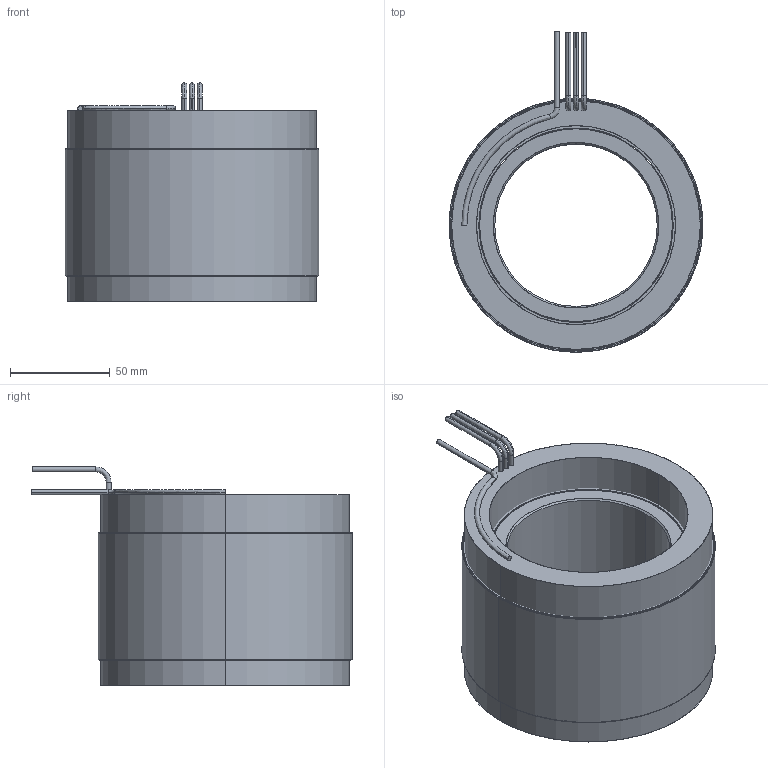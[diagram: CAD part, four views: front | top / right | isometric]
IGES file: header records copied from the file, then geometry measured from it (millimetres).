
Start section: SolidWorks IGES file using analytic representation for surfaces
Global section: file name: \\fs01.aveox.local\user documents\eng\My Documents\6100398-XX STATOR AND ROTOR SET, UT-5000-24P4, SENSORLESS TABULATED\6100398-05.IGS; native system: SolidWorks 2016; preprocessor: SolidWorks 2016; author: eng; date: 201226.190737; units: inch
Bounding box: 127 x 160.29 x 109.22 mm (x, y, z)
Surface area: 213844.2 mm2 (no closed solid volume)
Topology: 0 solids, 0 shells, 75 faces, 2224 edges, 2224 vertices
Faces by surface type: revolution 46, bspline 29
